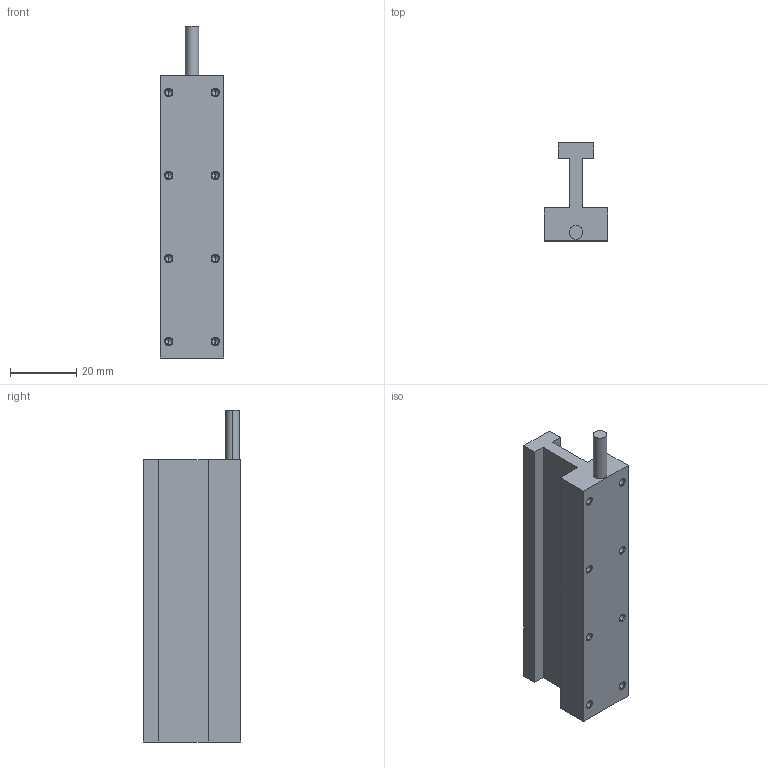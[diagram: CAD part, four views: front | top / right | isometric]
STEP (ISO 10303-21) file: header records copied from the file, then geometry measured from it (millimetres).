
FILE_DESCRIPTION (( 'STEP AP214' ), '1' );
FILE_NAME ('JKA14.STEP', '2025-09-05T12:35:56', ( '' ), ( '' ), 'SwSTEP 2.0', 'SolidWorks 2016', '' );
FILE_SCHEMA (( 'AUTOMOTIVE_DESIGN' ));
Length unit declared in the file: millimetre
Products named in the file (1): JKA14
Bounding box: 19 x 29.5 x 100 mm (x, y, z)
Volume: 25301.3 mm3; surface area: 10460.3 mm2
Topology: 1 solids, 1 shells, 65 faces, 154 edges, 84 vertices
Faces by surface type: cone 32, cylinder 18, plane 15
Entity records: 1942 total; most frequent: DIRECTION 322, CARTESIAN_POINT 288, ORIENTED_EDGE 276, EDGE_CURVE 138, AXIS2_PLACEMENT_3D 118, LINE 86, VECTOR 86, VERTEX_POINT 84
